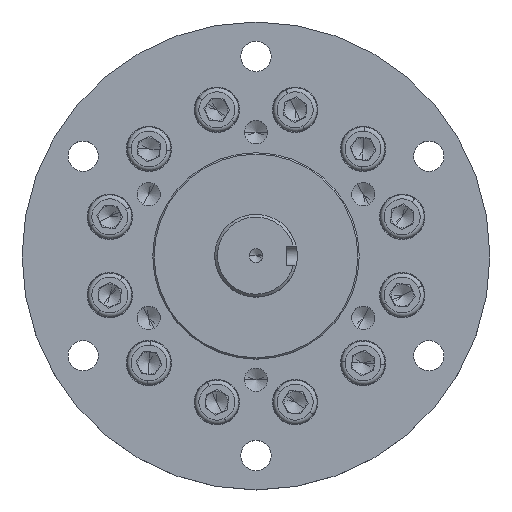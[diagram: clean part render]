
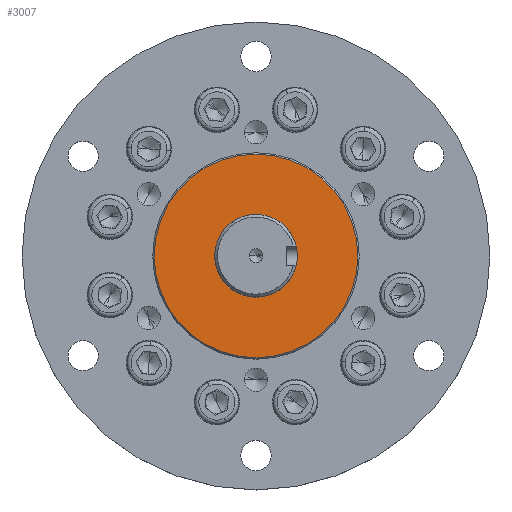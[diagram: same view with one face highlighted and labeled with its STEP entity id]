
A CAD part, top view. The second image highlights one B-rep face of the part: STEP entity #3007.
In plain terms, the highlighted planar face has unit normal (0, 0, 1).
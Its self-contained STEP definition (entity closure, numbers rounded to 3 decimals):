
#1109 = CIRCLE ( 'NONE', #16507, 37. ) ;
#1347 = ORIENTED_EDGE ( 'NONE', *, *, #14621, .F. ) ;
#2770 = EDGE_CURVE ( 'NONE', #9139, #15381, #12710, .T. ) ;
#2852 = FACE_BOUND ( 'NONE', #16208, .T. ) ;
#3007 = ADVANCED_FACE ( 'NONE', ( #10130, #2852 ), #10501, .T. ) ;
#3144 = DIRECTION ( 'NONE',  ( 0., 0., 1. ) ) ;
#3569 = DIRECTION ( 'NONE',  ( 0., 0., 1. ) ) ;
#4242 = CARTESIAN_POINT ( 'NONE',  ( 0., 0., 5. ) ) ;
#4471 = CARTESIAN_POINT ( 'NONE',  ( -37., 0., 5. ) ) ;
#5825 = VERTEX_POINT ( 'NONE', #17399 ) ;
#5871 = DIRECTION ( 'NONE',  ( 1., 0., 0. ) ) ;
#6867 = VERTEX_POINT ( 'NONE', #17095 ) ;
#6911 = DIRECTION ( 'NONE',  ( 1., 0., 0. ) ) ;
#6953 = ORIENTED_EDGE ( 'NONE', *, *, #16382, .T. ) ;
#7064 = CARTESIAN_POINT ( 'NONE',  ( 0., 0., 5. ) ) ;
#7490 = DIRECTION ( 'NONE',  ( 0., 0., 1. ) ) ;
#7616 = AXIS2_PLACEMENT_3D ( 'NONE', #9778, #10029, #14049 ) ;
#8406 = AXIS2_PLACEMENT_3D ( 'NONE', #4242, #9674, #6911 ) ;
#8601 = CARTESIAN_POINT ( 'NONE',  ( 37., 0., 5. ) ) ;
#9139 = VERTEX_POINT ( 'NONE', #8601 ) ;
#9627 = ORIENTED_EDGE ( 'NONE', *, *, #2770, .T. ) ;
#9674 = DIRECTION ( 'NONE',  ( 0., 0., 1. ) ) ;
#9680 = AXIS2_PLACEMENT_3D ( 'NONE', #10451, #3569, #13154 ) ;
#9778 = CARTESIAN_POINT ( 'NONE',  ( 0., 0., 5. ) ) ;
#10029 = DIRECTION ( 'NONE',  ( 0., 0., 1. ) ) ;
#10130 = FACE_OUTER_BOUND ( 'NONE', #11046, .T. ) ;
#10451 = CARTESIAN_POINT ( 'NONE',  ( 0., 0., 5. ) ) ;
#10501 = PLANE ( 'NONE',  #9680 ) ;
#11046 = EDGE_LOOP ( 'NONE', ( #6953, #9627 ) ) ;
#12710 = CIRCLE ( 'NONE', #7616, 37. ) ;
#13154 = DIRECTION ( 'NONE',  ( 1., 0., 0. ) ) ;
#13775 = CIRCLE ( 'NONE', #14430, 15. ) ;
#14049 = DIRECTION ( 'NONE',  ( 1., 0., 0. ) ) ;
#14430 = AXIS2_PLACEMENT_3D ( 'NONE', #7064, #3144, #5871 ) ;
#14621 = EDGE_CURVE ( 'NONE', #5825, #6867, #17012, .T. ) ;
#15381 = VERTEX_POINT ( 'NONE', #4471 ) ;
#15471 = EDGE_CURVE ( 'NONE', #6867, #5825, #13775, .T. ) ;
#15867 = DIRECTION ( 'NONE',  ( 1., 0., 0. ) ) ;
#16208 = EDGE_LOOP ( 'NONE', ( #1347, #17049 ) ) ;
#16382 = EDGE_CURVE ( 'NONE', #15381, #9139, #1109, .T. ) ;
#16507 = AXIS2_PLACEMENT_3D ( 'NONE', #16679, #7490, #15867 ) ;
#16679 = CARTESIAN_POINT ( 'NONE',  ( 0., 0., 5. ) ) ;
#17012 = CIRCLE ( 'NONE', #8406, 15. ) ;
#17049 = ORIENTED_EDGE ( 'NONE', *, *, #15471, .F. ) ;
#17095 = CARTESIAN_POINT ( 'NONE',  ( -15., 0., 5. ) ) ;
#17399 = CARTESIAN_POINT ( 'NONE',  ( 15., 0., 5. ) ) ;
